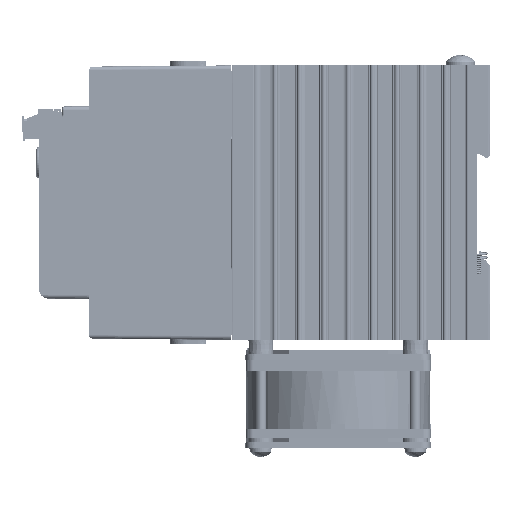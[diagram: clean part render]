
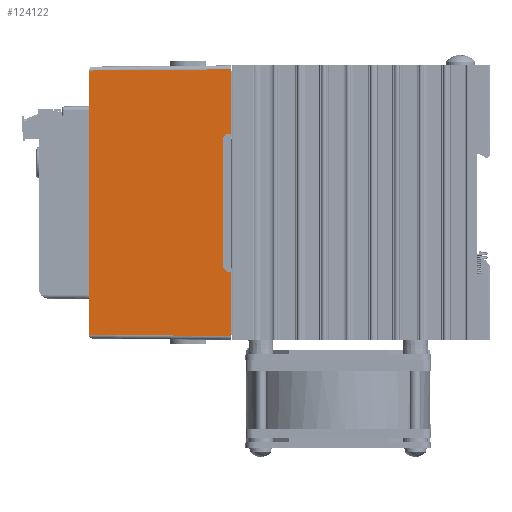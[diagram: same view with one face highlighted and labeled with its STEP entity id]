
A CAD part, left-side view. The second image highlights one B-rep face of the part: STEP entity #124122.
In plain terms, the highlighted planar face has unit normal (-1, 0.009, 0) as drawn and (-1, 0, 0.009) by its records, which use the part's own axes.
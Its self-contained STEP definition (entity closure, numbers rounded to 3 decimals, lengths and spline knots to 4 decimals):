
#5929=PLANE('',#133349);
#11650=FACE_OUTER_BOUND('',#18569,.T.);
#18569=EDGE_LOOP('',(#104721,#104722,#104723,#104724,#104725,#104726,#104727,
#104728,#104729,#104730));
#32921=LINE('',#215963,#46246);
#33716=LINE('',#217933,#47041);
#33719=LINE('',#217938,#47044);
#33721=LINE('',#217943,#47046);
#33727=LINE('',#217954,#47052);
#33731=LINE('',#217962,#47056);
#33739=LINE('',#217982,#47064);
#33740=LINE('',#217984,#47065);
#33741=LINE('',#217986,#47066);
#33742=LINE('',#217987,#47067);
#46246=VECTOR('',#156910,0.3937);
#47041=VECTOR('',#158763,0.3937);
#47044=VECTOR('',#158768,0.3937);
#47046=VECTOR('',#158772,0.3937);
#47052=VECTOR('',#158782,0.3937);
#47056=VECTOR('',#158790,0.3937);
#47064=VECTOR('',#158810,0.3937);
#47065=VECTOR('',#158813,0.3937);
#47066=VECTOR('',#158814,0.3937);
#47067=VECTOR('',#158815,0.3937);
#58695=VERTEX_POINT('',#215960);
#58696=VERTEX_POINT('',#215962);
#59239=VERTEX_POINT('',#217930);
#59240=VERTEX_POINT('',#217932);
#59241=VERTEX_POINT('',#217936);
#59242=VERTEX_POINT('',#217940);
#59243=VERTEX_POINT('',#217942);
#59246=VERTEX_POINT('',#217952);
#59254=VERTEX_POINT('',#217980);
#59255=VERTEX_POINT('',#217985);
#74284=EDGE_CURVE('',#58696,#58695,#32921,.T.);
#75238=EDGE_CURVE('',#59240,#59239,#33716,.T.);
#75241=EDGE_CURVE('',#59239,#59241,#33719,.T.);
#75243=EDGE_CURVE('',#59243,#59242,#33721,.T.);
#75249=EDGE_CURVE('',#59241,#59246,#33727,.T.);
#75253=EDGE_CURVE('',#59246,#59243,#33731,.T.);
#75263=EDGE_CURVE('',#59242,#59254,#33739,.T.);
#75264=EDGE_CURVE('',#58696,#59254,#33740,.T.);
#75265=EDGE_CURVE('',#59255,#58695,#33741,.T.);
#75266=EDGE_CURVE('',#59255,#59240,#33742,.T.);
#104721=ORIENTED_EDGE('',*,*,#75238,.T.);
#104722=ORIENTED_EDGE('',*,*,#75241,.T.);
#104723=ORIENTED_EDGE('',*,*,#75249,.T.);
#104724=ORIENTED_EDGE('',*,*,#75253,.T.);
#104725=ORIENTED_EDGE('',*,*,#75243,.T.);
#104726=ORIENTED_EDGE('',*,*,#75263,.T.);
#104727=ORIENTED_EDGE('',*,*,#75264,.F.);
#104728=ORIENTED_EDGE('',*,*,#74284,.T.);
#104729=ORIENTED_EDGE('',*,*,#75265,.F.);
#104730=ORIENTED_EDGE('',*,*,#75266,.T.);
#124122=ADVANCED_FACE('',(#11650),#5929,.T.);
#133349=AXIS2_PLACEMENT_3D('',#217983,#158811,#158812);
#156910=DIRECTION('',(0.,1.,0.));
#158763=DIRECTION('',(0.009,-0.009,1.));
#158768=DIRECTION('',(0.006,-0.71,0.704));
#158772=DIRECTION('',(-0.009,-0.009,-1.));
#158782=DIRECTION('',(0.,-1.,0.));
#158790=DIRECTION('',(-0.006,-0.71,-0.704));
#158810=DIRECTION('',(0.,-1.,0.));
#158811=DIRECTION('center_axis',(-1.,0.,
0.009));
#158812=DIRECTION('ref_axis',(0.,-1.,0.));
#158813=DIRECTION('',(-0.009,-0.009,-1.));
#158814=DIRECTION('',(0.009,-0.009,1.));
#158815=DIRECTION('',(0.,-1.,0.));
#215960=CARTESIAN_POINT('',(0.0158,3.4342,1.811));
#215962=CARTESIAN_POINT('',(0.0158,0.0658,1.811));
#215963=CARTESIAN_POINT('',(0.0158,3.5,1.811));
#217930=CARTESIAN_POINT('',(0.0005,2.6295,0.0521));
#217932=CARTESIAN_POINT('',(0.,2.63,0.));
#217933=CARTESIAN_POINT('',(0.0001,2.6299,0.0115));
#217936=CARTESIAN_POINT('',(0.0009,2.5762,0.105));
#217938=CARTESIAN_POINT('',(0.0061,1.9795,0.6965));
#217940=CARTESIAN_POINT('',(0.,0.87,0.));
#217942=CARTESIAN_POINT('',(0.0005,0.8705,0.0521));
#217943=CARTESIAN_POINT('',(0.0002,0.8702,0.0223));
#217952=CARTESIAN_POINT('',(0.0009,0.9238,0.105));
#217954=CARTESIAN_POINT('',(0.0009,1.2881,0.105));
#217962=CARTESIAN_POINT('',(-0.0013,0.6646,-0.152));
#217980=CARTESIAN_POINT('',(0.,0.05,0.));
#217982=CARTESIAN_POINT('',(0.,3.5,0.));
#217983=CARTESIAN_POINT('Origin',(0.,0.,0.));
#217984=CARTESIAN_POINT('',(0.0001,0.0501,0.0118));
#217985=CARTESIAN_POINT('',(0.,3.45,0.));
#217986=CARTESIAN_POINT('',(0.0001,3.4499,0.0148));
#217987=CARTESIAN_POINT('',(0.,3.5,0.));
